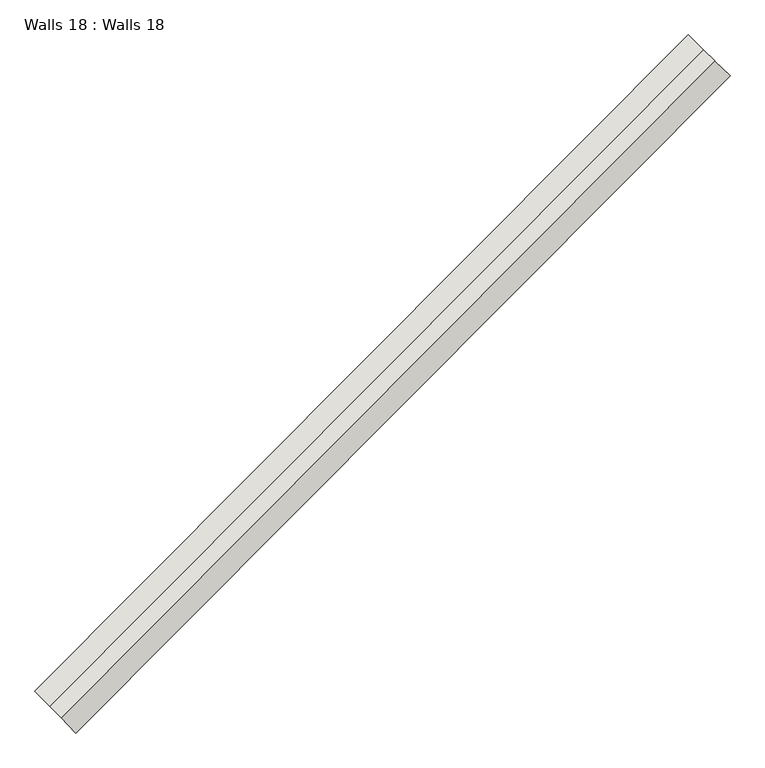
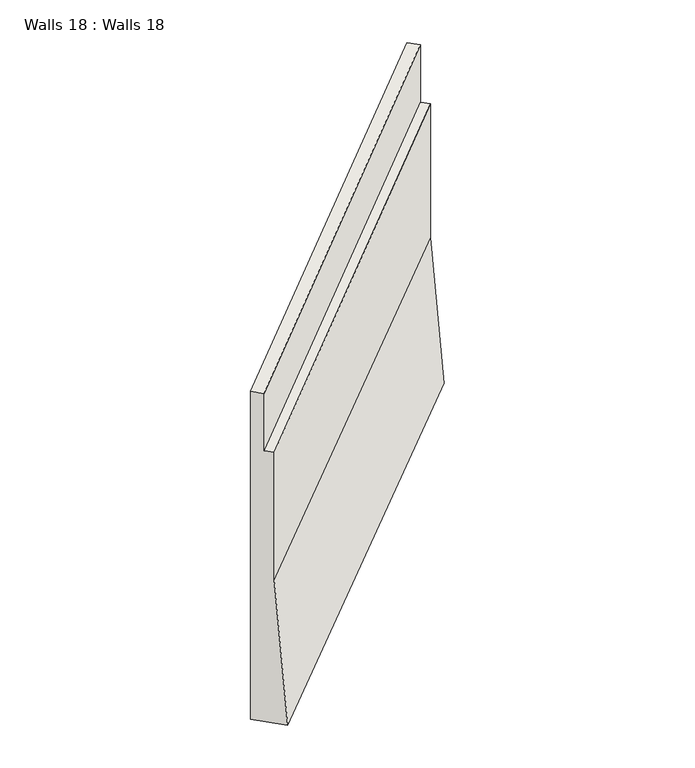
"""IFC4 building model written with IfcOpenShell, lengths in millimetres: wall geometry, Walls 18 : Walls 18."""

from ifc_helpers import new_model, si_unit, frame, origin, place, context, project, spatial, source, transform, mapped, element, save
from ifc_brep_helpers import plane_surface, spline_curve, spline_surface, advanced_brep


def walls_18_walls_18_b2291985(model_context):
    return source(origin(), model_context, "Body", "AdvancedBrep", [
        advanced_brep(
        [(-233115.3224815, -393675.7234789, 635410.0), (-233508.6615935, -393291.2961867, 635410.0), (-233508.6615935, -393291.2961867, 641250.0), (-233365.6291891, -393431.0879293, 641250.0), (-233365.6291891, -393431.0879293, 640250.0), (-233258.3548859, -393535.9317363, 640250.0), (-233258.3548859, -393535.9317363, 637910.0), (-239260.0619955, -399849.015583, 635340.0), (-239400.2757531, -399706.7315298, 637840.0), (-239400.2757531, -399706.7315298, 640060.0), (-239505.4360714, -399600.01849, 640060.0), (-239505.4360714, -399600.01849, 641060.0), (-239645.6498291, -399457.7344368, 641060.0), (-239645.6498291, -399457.7344368, 635340.0)],
        [
            (0, 1),
            (1, 2),
            (2, 3),
            (3, 4),
            (4, 5),
            (5, 6),
            (6, 0),
            (7, 8),
            (8, 9),
            (9, 10),
            (10, 11),
            (11, 12),
            (12, 13),
            (13, 7),
            (12, 2, spline_curve(3, [(-239645.6498291, -399457.7344368, 641060.0), (-237580.733636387, -397421.524200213, 641123.333333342), (-235534.950644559, -395365.92380064, 641186.666666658), (-233508.6615935, -393291.2961867, 641250.0)], [4, 4], [0.0, 28.546351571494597])),
            (1, 13, spline_curve(3, [(-233508.6615935, -393291.2961867, 635410.0), (-235534.950644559, -395365.92380064, 635386.666667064), (-237580.733636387, -397421.524200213, 635363.333332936), (-239645.6498291, -399457.7344368, 635340.0)], [4, 4], [0.0, 28.546351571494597])),
            (11, 3, spline_curve(3, [(-239505.4360714, -399600.01849, 641060.0), (-237439.573083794, -397562.986858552, 641123.333333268), (-235392.850481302, -395506.55564631, 641186.666666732), (-233365.6291891, -393431.0879293, 641250.0)], [4, 4], [0.0, 28.556129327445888])),
            (9, 5, spline_curve(3, [(-239400.2757531, -399706.7315298, 640060.0), (-237333.702670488, -397669.083852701, 640123.333333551), (-235286.275359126, -395612.029531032, 640186.666666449), (-233258.3548859, -393535.9317363, 640250.0)], [4, 4], [0.0, 28.566906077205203])),
            (4, 10, spline_curve(3, [(-233365.6291891, -393431.0879293, 640250.0), (-235392.850481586, -395506.555646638, 640186.666666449), (-237439.57308399, -397562.986858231, 640123.333333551), (-239505.4360714, -399600.01849, 640060.0)], [4, 4], [0.0, 28.566906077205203])),
            (7, 0, spline_curve(3, [(-239260.0619955, -399849.015583, 635340.0), (-237192.542118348, -397810.546510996, 635363.333333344), (-235144.175196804, -395752.661377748, 635386.666666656), (-233115.3224815, -393675.7234789, 635410.0)], [4, 4], [0.0, 28.571806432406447])),
            (6, 8, spline_curve(3, [(-233258.3548859, -393535.9317363, 637910.0), (-235286.275359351, -395612.029531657, 637886.666666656), (-237333.702670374, -397669.083852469, 637863.333333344), (-239400.2757531, -399706.7315298, 637840.0)], [4, 4], [0.0, 28.571806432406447])),
        ],
        [
            plane_surface(frame((-233340.0876884, -393456.0507405, 638818.5714286), z_axis=(0.6989587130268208, 0.7151620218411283, 0.0), x_axis=(-0.7151620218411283, 0.6989587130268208, 0.0))),
            plane_surface(frame((-239480.3979004, -399625.4263566, 638680.0), z_axis=(-0.7122697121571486, -0.701905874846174, 0.0), x_axis=(-0.701905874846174, 0.7122697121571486, 0.0))),
            spline_surface(3, 3, [[(-239645.6498291, -399457.7344368, 635340.0), (-237580.73363641, -397421.52420014, 635363.333333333), (-235534.950644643, -395365.923800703, 635386.666666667), (-233508.6615935, -393291.2961867, 635410.0)], [(-239645.6498291, -399457.7344368, 637246.666666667), (-237580.73363641, -397421.52420014, 637283.333333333), (-235534.950644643, -395365.923800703, 637320.0), (-233508.6615935, -393291.2961867, 637356.666666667)], [(-239645.6498291, -399457.7344368, 639153.333333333), (-237580.73363641, -397421.52420014, 639203.333333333), (-235534.950644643, -395365.923800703, 639253.333333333), (-233508.6615935, -393291.2961867, 639303.333333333)], [(-239645.6498291, -399457.7344368, 641060.0), (-237580.73363641, -397421.52420014, 641123.333333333), (-235534.950644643, -395365.923800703, 641186.666666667), (-233508.6615935, -393291.2961867, 641250.0)]], [4, 4], [4, 4], [0.0, 18.963254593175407], [0.0, 28.546351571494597]),
            spline_surface(3, 3, [[(-239645.6498291, -399457.7344368, 641060.0), (-237580.73363641, -397421.52420014, 641123.333333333), (-235534.950644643, -395365.923800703, 641186.666666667), (-233508.6615935, -393291.2961867, 641250.0)], [(-239598.911909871, -399505.162454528, 641060.0), (-237533.680119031, -397468.678419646, 641123.333333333), (-235487.583923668, -395412.801082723, 641186.666666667), (-233460.984125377, -393337.893434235, 641250.0)], [(-239552.173990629, -399552.590472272, 641060.0), (-237486.626601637, -397515.832639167, 641123.333333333), (-235440.217202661, -395459.678364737, 641186.666666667), (-233413.306657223, -393384.490681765, 641250.0)], [(-239505.4360714, -399600.01849, 641060.0), (-237439.573084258, -397562.986858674, 641123.333333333), (-235392.850481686, -395506.555646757, 641186.666666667), (-233365.6291891, -393431.0879293, 641250.0)]], [4, 4], [4, 4], [0.0, 0.6557767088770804], [0.0, 28.556129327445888]),
            spline_surface(3, 3, [[(-239505.4360714, -399600.01849, 640060.0), (-237439.573084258, -397562.986858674, 640123.333333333), (-235392.850481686, -395506.555646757, 640186.666666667), (-233365.6291891, -393431.0879293, 640250.0)], [(-239470.382631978, -399635.589503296, 640060.0), (-237404.282946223, -397598.352523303, 640123.333333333), (-235357.325440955, -395541.713608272, 640186.666666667), (-233329.871088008, -393466.035864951, 640250.0)], [(-239435.329192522, -399671.160516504, 640060.0), (-237368.992808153, -397633.718187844, 640123.333333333), (-235321.8004003, -395576.871569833, 640186.666666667), (-233294.112986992, -393500.983800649, 640250.0)], [(-239400.2757531, -399706.7315298, 640060.0), (-237333.702670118, -397669.083852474, 640123.333333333), (-235286.275359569, -395612.029531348, 640186.666666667), (-233258.3548859, -393535.9317363, 640250.0)]], [4, 4], [4, 4], [0.0, 0.49183253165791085], [0.0, 28.566906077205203]),
            spline_surface(3, 3, [[(-239400.2757531, -399706.7315298, 637840.0), (-237333.702670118, -397669.083852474, 637863.333333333), (-235286.275359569, -395612.029531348, 637886.666666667), (-233258.3548859, -393535.9317363, 637910.0)], [(-239353.537833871, -399754.159547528, 637006.666666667), (-237286.649152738, -397716.23807198, 637030.0), (-235238.908638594, -395658.906813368, 637053.333333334), (-233210.677417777, -393582.528983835, 637076.666666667)], [(-239306.799914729, -399801.587565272, 636173.333333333), (-237239.595635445, -397763.392291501, 636196.666666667), (-235191.541917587, -395705.784095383, 636220.0), (-233162.999949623, -393629.126231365, 636243.333333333)], [(-239260.0619955, -399849.015583, 635340.0), (-237192.542118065, -397810.546511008, 635363.333333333), (-235144.175196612, -395752.661377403, 635386.666666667), (-233115.3224815, -393675.7234789, 635410.0)]], [4, 4], [4, 4], [0.0, 8.228273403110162], [0.0, 28.571806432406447]),
            spline_surface(3, 3, [[(-239260.0619955, -399849.015583, 635340.0), (-237192.542118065, -397810.546511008, 635363.333333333), (-235144.175196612, -395752.661377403, 635386.666666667), (-233115.3224815, -393675.7234789, 635410.0)], [(-239388.591273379, -399718.588534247, 635340.0), (-237321.939290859, -397680.872407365, 635363.333333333), (-235274.433679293, -395623.748851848, 635386.666666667), (-233246.435518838, -393547.581048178, 635410.0)], [(-239517.120551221, -399588.161485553, 635340.0), (-237451.336463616, -397551.198303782, 635363.333333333), (-235404.692161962, -395494.836326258, 635386.666666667), (-233377.548556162, -393419.438617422, 635410.0)], [(-239645.6498291, -399457.7344368, 635340.0), (-237580.73363641, -397421.52420014, 635363.333333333), (-235534.950644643, -395365.923800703, 635386.666666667), (-233508.6615935, -393291.2961867, 635410.0)]], [4, 4], [4, 4], [0.0, 1.8033859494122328], [0.0, 28.561027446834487]),
            spline_surface(3, 3, [[(-239505.4360714, -399600.01849, 641060.0), (-237439.573084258, -397562.986858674, 641123.333333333), (-235392.850481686, -395506.555646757, 641186.666666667), (-233365.6291891, -393431.0879293, 641250.0)], [(-239505.4360714, -399600.01849, 640726.666666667), (-237439.573084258, -397562.986858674, 640790.0), (-235392.850481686, -395506.555646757, 640853.333333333), (-233365.6291891, -393431.0879293, 640916.666666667)], [(-239505.4360714, -399600.01849, 640393.333333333), (-237439.573084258, -397562.986858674, 640456.666666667), (-235392.850481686, -395506.555646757, 640520.0), (-233365.6291891, -393431.0879293, 640583.333333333)], [(-239505.4360714, -399600.01849, 640060.0), (-237439.573084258, -397562.986858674, 640123.333333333), (-235392.850481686, -395506.555646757, 640186.666666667), (-233365.6291891, -393431.0879293, 640250.0)]], [4, 4], [4, 4], [0.0, 3.280839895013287], [0.0, 28.562287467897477]),
            spline_surface(3, 3, [[(-239400.2757531, -399706.7315298, 640060.0), (-237333.702670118, -397669.083852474, 640123.333333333), (-235286.275359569, -395612.029531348, 640186.666666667), (-233258.3548859, -393535.9317363, 640250.0)], [(-239400.2757531, -399706.7315298, 639320.0), (-237333.702670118, -397669.083852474, 639370.0), (-235286.275359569, -395612.029531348, 639420.0), (-233258.3548859, -393535.9317363, 639470.0)], [(-239400.2757531, -399706.7315298, 638580.0), (-237333.702670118, -397669.083852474, 638616.666666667), (-235286.275359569, -395612.029531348, 638653.333333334), (-233258.3548859, -393535.9317363, 638690.0)], [(-239400.2757531, -399706.7315298, 637840.0), (-237333.702670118, -397669.083852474, 637863.333333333), (-235286.275359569, -395612.029531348, 637886.666666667), (-233258.3548859, -393535.9317363, 637910.0)]], [4, 4], [4, 4], [0.0, 7.480314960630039], [0.0, 28.567907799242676]),
        ],
        [
            (0, [[1, 2, 3, 4, 5, 6, 7]]),
            (1, [[8, 9, 10, 11, 12, 13, 14]]),
            (2, [[-13, 15, -2, 16]]),
            (3, [[-12, 17, -3, -15]]),
            (4, [[-10, 18, -5, 19]]),
            (5, [[-8, 20, -7, 21]]),
            (6, [[-14, -16, -1, -20]]),
            (7, [[-11, -19, -4, -17]]),
            (8, [[-9, -21, -6, -18]]),
        ],
    ),
    ])


if __name__ == "__main__":
    model = new_model("IFC4")
    model_context = context("Model", 3, world=origin())
    ifc_project = project(units=[si_unit("LENGTHUNIT", "METRE", prefix="MILLI")], contexts=[model_context])
    site = spatial("IfcSite", under=ifc_project)
    building = spatial("IfcBuilding", under=site)
    placement = place(None, origin())
    walls_18_walls_18_shape = walls_18_walls_18_b2291985(model_context)
    element("IfcWall", 1, ObjectType="Walls 18 : Walls 18", at=placement, inside=building, context=model_context, shape_type="MappedRepresentation", body=[
        mapped(walls_18_walls_18_shape, transform((0.0, 0.0, 0.0), x_axis=(1.0, 0.0, 0.0), y_axis=(0.0, 1.0, 0.0), z_axis=(0.0, 0.0, 1.0))),
    ])
    save(model, "model.ifc")
